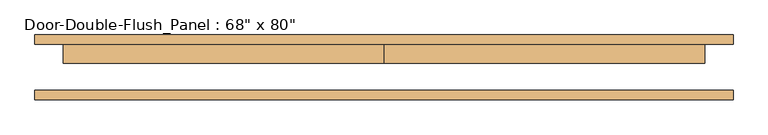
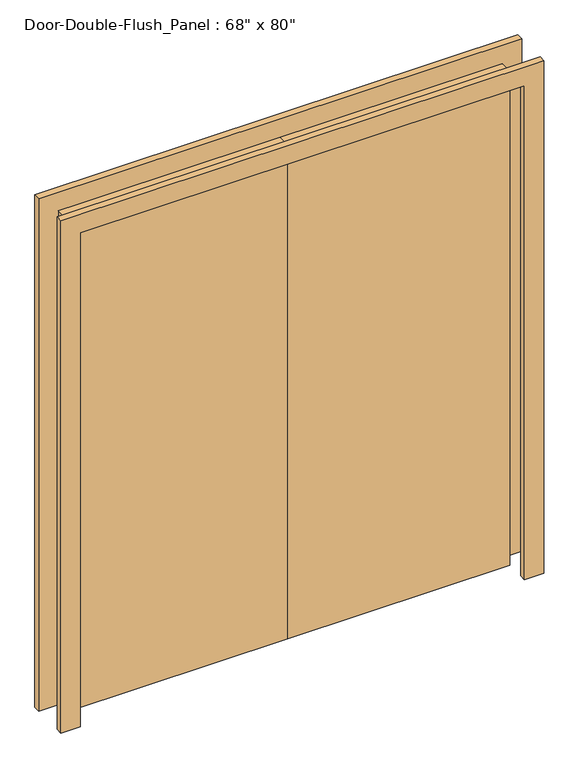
"""IFC4 building model written with IfcOpenShell, lengths in millimetres: door geometry."""

from ifc_helpers import new_model, si_unit, frame, origin, origin_with_axes, place, context, project, spatial, polyline, outline, extrude, source, transform, mapped, element, save


def door_7f6ceba9(model_context):
    return source(origin(), model_context, "Body", "SweptSolid", [
        extrude(outline(polyline([(2032.0, -863.6), (2032.0, 863.6), (0.0, 863.6), (0.0, 939.8), (2108.2, 939.8), (2108.2, -939.8), (0.0, -939.8), (0.0, -863.6), (2032.0, -863.6)])), frame((0.0, -87.3125, 0.0), z_axis=(0.0, 1.0, 0.0), x_axis=(0.0, 0.0, 1.0)), (0.0, 0.0, 1.0), 25.4),
        extrude(outline(polyline([(2032.0, -863.6), (2032.0, 863.6), (0.0, 863.6), (0.0, 939.8), (2108.2, 939.8), (2108.2, -939.8), (0.0, -939.8), (0.0, -863.6), (2032.0, -863.6)])), frame((0.0, 61.9125, 0.0), z_axis=(0.0, 1.0, 0.0), x_axis=(0.0, 0.0, 1.0)), (0.0, 0.0, 1.0), 25.4),
        extrude(outline(polyline([(0.0, 61.9125), (863.6, 61.9125), (863.6, 11.1125), (0.0, 11.1125), (0.0, 61.9125)])), origin_with_axes(), (0.0, 0.0, 1.0), 2032.0),
        extrude(outline(polyline([(-863.6, 61.9125), (0.0, 61.9125), (0.0, 11.1125), (-863.6, 11.1125), (-863.6, 61.9125)])), origin_with_axes(), (0.0, 0.0, 1.0), 2032.0),
    ])


if __name__ == "__main__":
    model = new_model("IFC4")
    model_context = context("Model", 3, world=origin())
    ifc_project = project(units=[si_unit("LENGTHUNIT", "METRE", prefix="MILLI")], contexts=[model_context])
    site = spatial("IfcSite", under=ifc_project)
    building = spatial("IfcBuilding", under=site)
    placement = place(None, origin())
    door_shape = door_7f6ceba9(model_context)
    element("IfcDoor", 1, ObjectType="Door-Double-Flush_Panel : 68\" x 80\"", at=placement, inside=building, context=model_context, shape_type="MappedRepresentation", body=[
        mapped(door_shape, transform((0.0, 0.0, 0.0), x_axis=(1.0, 0.0, 0.0), y_axis=(0.0, 1.0, 0.0), z_axis=(0.0, 0.0, 1.0))),
    ])
    save(model, "model.ifc")
